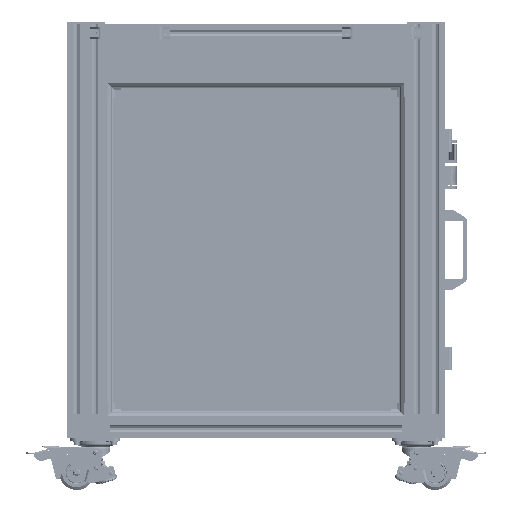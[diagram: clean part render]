
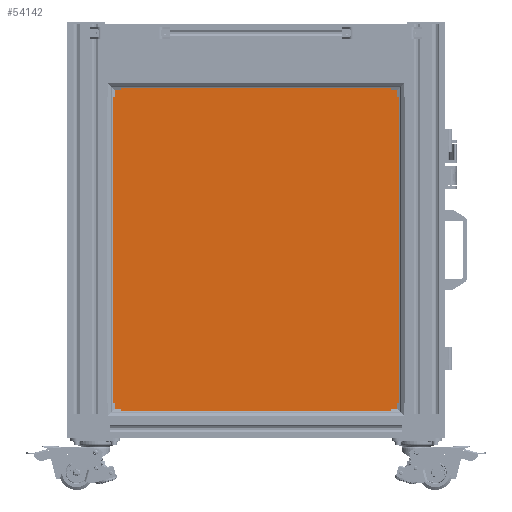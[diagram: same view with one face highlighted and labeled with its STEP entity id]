
A CAD part, left-side view. The second image highlights one B-rep face of the part: STEP entity #54142.
In plain terms, the highlighted planar face has unit normal (-1, 0, 0) as drawn and (0, 0, 1) by its records, which use the part's own axes.
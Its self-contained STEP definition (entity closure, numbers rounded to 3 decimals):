
#54142=ADVANCED_FACE('',(#103874),#103875,.T.);
#103874=FACE_OUTER_BOUND('',#164549,.T.);
#103875=PLANE('',#164550);
#164549=EDGE_LOOP('',(#350055,#350056,#350057,#350058));
#164550=AXIS2_PLACEMENT_3D('',#350059,#350060,#350061);
#350055=ORIENTED_EDGE('',*,*,#465244,.T.);
#350056=ORIENTED_EDGE('',*,*,#465249,.T.);
#350057=ORIENTED_EDGE('',*,*,#465253,.T.);
#350058=ORIENTED_EDGE('',*,*,#465256,.T.);
#350059=CARTESIAN_POINT('',(-468.0,37.556,5.0));
#350060=DIRECTION('',(0.0,0.0,1.0));
#350061=DIRECTION('',(1.0,0.0,0.0));
#465244=EDGE_CURVE('',#526328,#526326,#526329,.T.);
#465249=EDGE_CURVE('',#526326,#526334,#526336,.T.);
#465253=EDGE_CURVE('',#526334,#526340,#526342,.T.);
#465256=EDGE_CURVE('',#526340,#526328,#526345,.T.);
#526326=VERTEX_POINT('',#617400);
#526328=VERTEX_POINT('',#617403);
#526329=LINE('',#617404,#617405);
#526334=VERTEX_POINT('',#617412);
#526336=LINE('',#617415,#617416);
#526340=VERTEX_POINT('',#617421);
#526342=LINE('',#617424,#617425);
#526345=LINE('',#617429,#617430);
#617400=CARTESIAN_POINT('',(-468.0,37.556,5.0));
#617403=CARTESIAN_POINT('',(-468.0,672.556,5.0));
#617404=CARTESIAN_POINT('',(-468.0,672.556,5.0));
#617405=VECTOR('',#767371,1.0);
#617412=CARTESIAN_POINT('',(245.4,37.556,5.0));
#617415=CARTESIAN_POINT('',(-468.0,37.556,5.0));
#617416=VECTOR('',#767375,1.0);
#617421=CARTESIAN_POINT('',(245.4,672.556,5.0));
#617424=CARTESIAN_POINT('',(245.4,37.556,5.0));
#617425=VECTOR('',#767378,1.0);
#617429=CARTESIAN_POINT('',(245.4,672.556,5.0));
#617430=VECTOR('',#767380,1.0);
#767371=DIRECTION('',(0.0,-1.0,0.0));
#767375=DIRECTION('',(1.0,0.0,0.0));
#767378=DIRECTION('',(0.0,1.0,0.0));
#767380=DIRECTION('',(-1.0,0.0,0.0));
